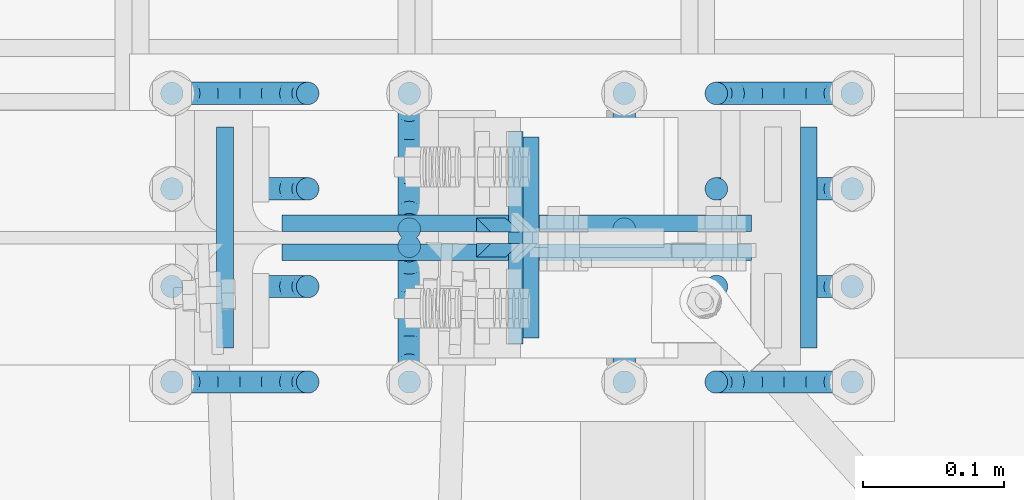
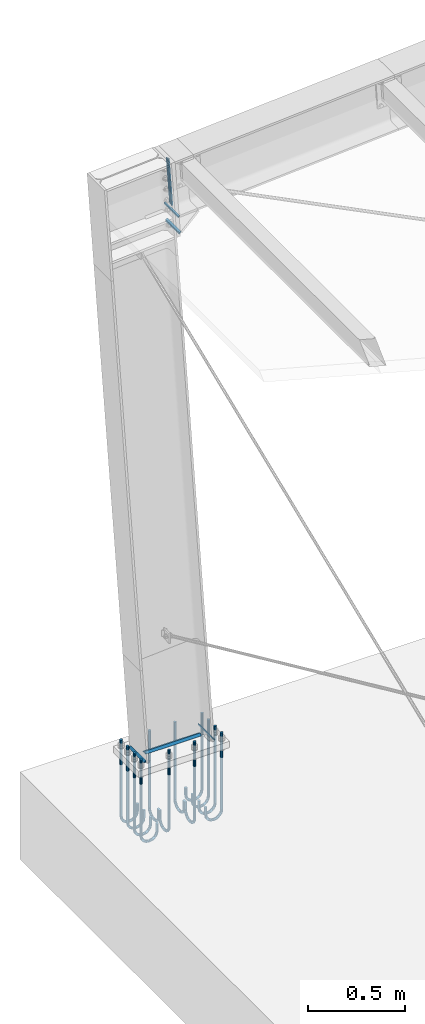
# One storey, part 22 of 72: 16 fasteners, 3 reinforcing bars.
"""IFC4 building model written with IfcOpenShell, lengths in metres."""

from ifc_helpers import new_model, entity, si_unit, frame, origin_with_axes, place, context, project, spatial, polyline, outline, extrude, source, transform, mapped, type_object, element, save


model = new_model("IFC4")

# Units and contexts
model_context = context("Model", 3, precision=1e-05, world=origin_with_axes())
ifc_project = project(units=[si_unit("LENGTHUNIT", "METRE"), si_unit("AREAUNIT", "SQUARE_METRE"), si_unit("VOLUMEUNIT", "CUBIC_METRE"), si_unit("MASSUNIT", "GRAM", prefix="KILO"), si_unit("TIMEUNIT", "SECOND"), si_unit("PLANEANGLEUNIT", "RADIAN"), si_unit("SOLIDANGLEUNIT", "STERADIAN"), si_unit("THERMODYNAMICTEMPERATUREUNIT", "DEGREE_CELSIUS")], contexts=[model_context])

# Site, building, storey
placement_1 = place(None, origin_with_axes())
site = spatial("IfcSite", under=ifc_project, at=placement_1, Name="Italia", CompositionType="ELEMENT")
building = spatial("IfcBuilding", under=site, at=placement_1, Name="Pensilina", CompositionType="ELEMENT")
storey = spatial("IfcBuildingStorey", under=building, at=placement_1, Name="Storey 0", CompositionType="ELEMENT", Elevation=0.0)

# Fasteners
fastener_type_1 = type_object("IfcFastenerType", Name="Collegamento 0005_-200", PredefinedType="WELD")
placement_2 = place(placement_1, origin_with_axes())
fastener_1_placement = place(placement_2, origin_with_axes())
element("IfcFastener", 1, at=fastener_1_placement, inside=storey, type_object=fastener_type_1, Name="Collegamento 0005_-200", context=model_context, shape_type="SweptSolid", body=[
    extrude(outline(polyline([(0.0, 0.0, 0.0), (0.0118082, 0.0121734, 0.0), (0.0118082, 0.0, 0.0), (0.0, 0.0, 0.0)])), frame((1.14428, 21.042, 0.103658), z_axis=(0.0, 1.0, 0.0), x_axis=(-1.0, 0.0, 0.0)), (0.0, 0.0, 1.0), 0.156101),
])
fastener_type_2 = type_object("IfcFastenerType", Name="Collegamento 0005_-200", PredefinedType="WELD")
fastener_2_placement = place(placement_2, origin_with_axes())
element("IfcFastener", 2, at=fastener_2_placement, inside=storey, type_object=fastener_type_2, Name="Collegamento 0005_-200", context=model_context, shape_type="SweptSolid", body=[
    extrude(outline(polyline([(0.0, 0.0, 0.0), (0.0118082, 0.0121734, 0.0), (0.0118082, 0.0, 0.0), (0.0, 0.0, 0.0)])), frame((0.719817, 21.1981, 0.103658), z_axis=(0.0, -1.0, 0.0), x_axis=(1.0, 0.0, 0.0)), (0.0, 0.0, 1.0), 0.156101),
])
fastener_type_3 = type_object("IfcFastenerType", Name="Collegamento 0005_-200", PredefinedType="WELD")
fastener_3_placement = place(placement_2, origin_with_axes())
element("IfcFastener", 3, at=fastener_3_placement, inside=storey, type_object=fastener_type_3, Name="Collegamento 0005_-200", context=model_context, shape_type="SweptSolid", body=[
    extrude(outline(polyline([(0.0, 0.0, 0.0), (0.0118084, 0.0121734, 0.0), (0.0118084, 0.0, 0.0), (0.0, 0.0, 0.0)])), frame((0.766057, 21.1039, 0.103658), z_axis=(1.0, 0.0, 0.0), x_axis=(0.0, 1.0, 0.0)), (0.0, 0.0, 1.0), 0.331979),
])
fastener_type_4 = type_object("IfcFastenerType", Name="Collegamento 0005_-200", PredefinedType="WELD")
fastener_4_placement = place(placement_2, origin_with_axes())
element("IfcFastener", 4, at=fastener_4_placement, inside=storey, type_object=fastener_type_4, Name="Collegamento 0005_-200", context=model_context, shape_type="SweptSolid", body=[
    extrude(outline(polyline([(0.0, 0.0, 0.0), (0.0118084, 0.0121734, 0.0), (0.0118084, 0.0, 0.0), (0.0, 0.0, 0.0)])), frame((1.09804, 21.1361, 0.103658), z_axis=(-1.0, 0.0, 0.0), x_axis=(0.0, -1.0, 0.0)), (0.0, 0.0, 1.0), 0.331979),
])
fastener_type_5 = type_object("IfcFastenerType", Name="Collegamento 0005_-200", PredefinedType="WELD")
fastener_5_placement = place(placement_2, origin_with_axes())
element("IfcFastener", 5, at=fastener_5_placement, inside=storey, type_object=fastener_type_5, Name="Collegamento 0005_-200", context=model_context, shape_type="SweptSolid", body=[
    extrude(outline(polyline([(0.0, 0.0, 0.0), (0.0118082, 0.0121734, 0.0), (0.0118082, 0.0, 0.0), (0.0, 0.0, 0.0)])), frame((1.14428, 21.042, 0.103658), z_axis=(0.0, 1.0, 0.0), x_axis=(-1.0, 0.0, 0.0)), (0.0, 0.0, 1.0), 0.156101),
])
fastener_type_6 = type_object("IfcFastenerType", Name="Collegamento 0005_-200", PredefinedType="WELD")
fastener_6_placement = place(placement_2, origin_with_axes())
element("IfcFastener", 6, at=fastener_6_placement, inside=storey, type_object=fastener_type_6, Name="Collegamento 0005_-200", context=model_context, shape_type="SweptSolid", body=[
    extrude(outline(polyline([(0.0, 0.0, 0.0), (0.0118082, 0.0121734, 0.0), (0.0118082, 0.0, 0.0), (0.0, 0.0, 0.0)])), frame((0.719817, 21.1981, 0.103658), z_axis=(0.0, -1.0, 0.0), x_axis=(1.0, 0.0, 0.0)), (0.0, 0.0, 1.0), 0.156101),
])
fastener_type_7 = type_object("IfcFastenerType", Name="Collegamento 0005_-200", PredefinedType="WELD")
fastener_7_placement = place(placement_2, origin_with_axes())
element("IfcFastener", 7, at=fastener_7_placement, inside=storey, type_object=fastener_type_7, Name="Collegamento 0005_-200", context=model_context, shape_type="SweptSolid", body=[
    extrude(outline(polyline([(0.0, 0.0, 0.0), (0.0118084, 0.0121734, 0.0), (0.0118084, 0.0, 0.0), (0.0, 0.0, 0.0)])), frame((0.766057, 21.1039, 0.103658), z_axis=(1.0, 0.0, 0.0), x_axis=(0.0, 1.0, 0.0)), (0.0, 0.0, 1.0), 0.331979),
])
fastener_type_8 = type_object("IfcFastenerType", Name="Collegamento 0005_-200", PredefinedType="WELD")
fastener_8_placement = place(placement_2, origin_with_axes())
element("IfcFastener", 8, at=fastener_8_placement, inside=storey, type_object=fastener_type_8, Name="Collegamento 0005_-200", context=model_context, shape_type="SweptSolid", body=[
    extrude(outline(polyline([(0.0, 0.0, 0.0), (0.0118084, 0.0121734, 0.0), (0.0118084, 0.0, 0.0), (0.0, 0.0, 0.0)])), frame((1.09804, 21.1361, 0.103658), z_axis=(-1.0, 0.0, 0.0), x_axis=(0.0, -1.0, 0.0)), (0.0, 0.0, 1.0), 0.331979),
])

# Reinforcing bars
shared_shape_1 = source(origin_with_axes(), model_context, "Body", "AdvancedSweptSolid", [
    entity("IfcSweptDiskSolid", entity("IfcIndexedPolyCurve", entity("IfcCartesianPointList3D", [[0.68823, 21.222, 0.153708], [0.68823, 21.222, -0.330292]]), [entity("IfcLineIndex", [1, 2])], False), 0.008),
])
reinforcing_bar_1_placement = place(placement_2, origin_with_axes())
element("IfcReinforcingBar", 9, at=reinforcing_bar_1_placement, inside=storey, BarLength=0.484, CrossSectionArea=0.00020106, NominalDiameter=0.016, context=model_context, shape_type="MappedRepresentation", body=[
    mapped(shared_shape_1, transform((0.4809, 0.0, 0.0), x_axis=(1.0, 0.0, 0.0), y_axis=(0.0, 1.0, 0.0), z_axis=(0.0, 0.0, 1.0), scale=1.0)),
    mapped(shared_shape_1, transform((0.319817, -0.203999, 0.0), x_axis=(1.0, 0.0, 0.0), y_axis=(0.0, 1.0, 0.0), z_axis=(0.0, 0.0, 1.0), scale=1.0)),
    mapped(shared_shape_1, transform((0.319817, 0.0, 0.0), x_axis=(1.0, 0.0, 0.0), y_axis=(0.0, 1.0, 0.0), z_axis=(0.0, 0.0, 1.0), scale=1.0)),
    mapped(shared_shape_1, transform((0.4809, -0.203999, 0.0), x_axis=(1.0, 0.0, 0.0), y_axis=(0.0, 1.0, 0.0), z_axis=(0.0, 0.0, 1.0), scale=1.0)),
    mapped(shared_shape_1, transform((0.4809, -0.136499, 0.0), x_axis=(1.0, 0.0, 0.0), y_axis=(0.0, 1.0, 0.0), z_axis=(0.0, 0.0, 1.0), scale=1.0)),
    mapped(shared_shape_1, transform((0.4809, -0.0674992, 0.0), x_axis=(1.0, 0.0, 0.0), y_axis=(0.0, 1.0, 0.0), z_axis=(0.0, 0.0, 1.0), scale=1.0)),
    mapped(shared_shape_1, transform((0.0, -0.136499, 0.0), x_axis=(1.0, 0.0, 0.0), y_axis=(0.0, 1.0, 0.0), z_axis=(0.0, 0.0, 1.0), scale=1.0)),
    mapped(shared_shape_1, transform((0.0, -0.0674992, 0.0), x_axis=(1.0, 0.0, 0.0), y_axis=(0.0, 1.0, 0.0), z_axis=(0.0, 0.0, 1.0), scale=1.0)),
    mapped(shared_shape_1, transform((0.0, 0.0, 0.0), x_axis=(1.0, 0.0, 0.0), y_axis=(0.0, 1.0, 0.0), z_axis=(0.0, 0.0, 1.0), scale=1.0)),
    mapped(shared_shape_1, transform((0.167817, -0.203999, 0.0), x_axis=(1.0, 0.0, 0.0), y_axis=(0.0, 1.0, 0.0), z_axis=(0.0, 0.0, 1.0), scale=1.0)),
    mapped(shared_shape_1, transform((0.167817, 0.0, 0.0), x_axis=(1.0, 0.0, 0.0), y_axis=(0.0, 1.0, 0.0), z_axis=(0.0, 0.0, 1.0), scale=1.0)),
    mapped(shared_shape_1, transform((0.0, -0.203999, 0.0), x_axis=(1.0, 0.0, 0.0), y_axis=(0.0, 1.0, 0.0), z_axis=(0.0, 0.0, 1.0), scale=1.0)),
])
shared_shape_2 = source(origin_with_axes(), model_context, "Body", "AdvancedSweptSolid", [
    entity("IfcSweptDiskSolid", entity("IfcIndexedPolyCurve", entity("IfcCartesianPointList3D", [[0.68823, 21.222, -0.330292], [0.691883, 21.222, -0.348661]]), [entity("IfcLineIndex", [1, 2])], False), 0.008),
])
reinforcing_bar_2_placement = place(placement_2, origin_with_axes())
element("IfcReinforcingBar", 10, at=reinforcing_bar_2_placement, inside=storey, BarLength=0.0187287, CrossSectionArea=0.00020106, NominalDiameter=0.016, context=model_context, shape_type="MappedRepresentation", body=[
    mapped(shared_shape_2, transform((-20.366, 21.9102, 4.30048e-05), x_axis=(0.0, -1.0, -6.24508e-05), y_axis=(1.0, 0.0, 0.0), z_axis=(0.0, -6.24508e-05, 1.0), scale=1.0)),
    mapped(shared_shape_2, transform((0.0, -0.203999, 0.0), x_axis=(1.0, 0.0, 0.0), y_axis=(0.0, 1.0, 0.0), z_axis=(0.0, 0.0, 1.0), scale=1.0)),
    mapped(shared_shape_2, transform((-20.366, 21.9806, -0.30687), x_axis=(0.0, -0.923887, 0.382666), y_axis=(1.0, 0.0, 0.0), z_axis=(0.0, 0.382666, 0.923887), scale=1.0)),
    mapped(shared_shape_2, transform((-0.0703552, -0.203999, -0.306887), x_axis=(0.923879, 0.0, 0.382685), y_axis=(0.0, 1.0, 0.0), z_axis=(-0.382685, 0.0, 0.923879), scale=1.0)),
    mapped(shared_shape_2, transform((0.149338, -0.0674992, -0.884083), x_axis=(0.382682, 0.0, 0.92388), y_axis=(0.0, 1.0, 0.0), z_axis=(-0.92388, 0.0, 0.382682), scale=1.0)),
    mapped(shared_shape_2, transform((-20.366, 21.9282, -0.617316), x_axis=(0.0, -0.707124, 0.70709), y_axis=(1.0, 0.0, 0.0), z_axis=(0.0, 0.70709, 0.707124), scale=1.0)),
    mapped(shared_shape_2, transform((-0.0179145, 0.0, -0.617335), x_axis=(0.707105, 0.0, 0.707108), y_axis=(0.0, 1.0, 0.0), z_axis=(-0.707108, 0.0, 0.707105), scale=1.0)),
    mapped(shared_shape_2, transform((-20.366, 21.7609, -0.88409), x_axis=(0.0, -0.38267, 0.923885), y_axis=(1.0, 0.0, 0.0), z_axis=(0.0, 0.923885, 0.38267), scale=1.0)),
    mapped(shared_shape_2, transform((1.02327, -0.203999, -1.08444), x_axis=(-0.707106, 0.0, 0.707108), y_axis=(0.0, 1.0, 0.0), z_axis=(-0.707108, 0.0, -0.707106), scale=1.0)),
    mapped(shared_shape_2, transform((0.149338, -0.203999, -0.884083), x_axis=(0.382682, 0.0, 0.92388), y_axis=(0.0, 1.0, 0.0), z_axis=(-0.92388, 0.0, 0.382682), scale=1.0)),
    mapped(shared_shape_2, transform((0.712824, -0.0674992, -1.13688), x_axis=(-0.382684, 0.0, 0.923879), y_axis=(0.0, 1.0, 0.0), z_axis=(-0.923879, 0.0, -0.382684), scale=1.0)),
    mapped(shared_shape_2, transform((-20.366, 21.5043, -1.06652), x_axis=(0.0, 0.0, 1.0), y_axis=(1.0, 0.0, 0.0), z_axis=(0.0, 1.0, 0.0), scale=1.0)),
    mapped(shared_shape_2, transform((1.29002, -0.203999, -0.917183), x_axis=(-0.923881, 0.0, 0.382679), y_axis=(0.0, 1.0, 0.0), z_axis=(-0.382679, 0.0, -0.923881), scale=1.0)),
    mapped(shared_shape_2, transform((22.078, 21.0426, -1.13688), x_axis=(0.0, -0.382692, 0.923876), y_axis=(-1.0, 0.0, 0.0), z_axis=(0.0, -0.923876, -0.382692), scale=1.0)),
    mapped(shared_shape_2, transform((-0.0179145, -0.0674992, -0.617335), x_axis=(0.707105, 0.0, 0.707108), y_axis=(0.0, 1.0, 0.0), z_axis=(-0.707108, 0.0, 0.707105), scale=1.0)),
    mapped(shared_shape_2, transform((0.149338, 0.0, -0.884083), x_axis=(0.382682, 0.0, 0.92388), y_axis=(0.0, 1.0, 0.0), z_axis=(-0.92388, 0.0, 0.382682), scale=1.0)),
    mapped(shared_shape_2, transform((0.712824, -0.203999, -1.13688), x_axis=(-0.382684, 0.0, 0.923879), y_axis=(0.0, 1.0, 0.0), z_axis=(-0.923879, 0.0, -0.382684), scale=1.0)),
    mapped(shared_shape_2, transform((-0.0703552, 0.0, -0.306887), x_axis=(0.923879, 0.0, 0.382685), y_axis=(0.0, 1.0, 0.0), z_axis=(-0.382685, 0.0, 0.923879), scale=1.0)),
    mapped(shared_shape_2, transform((-0.0179145, -0.136499, -0.617335), x_axis=(0.707105, 0.0, 0.707108), y_axis=(0.0, 1.0, 0.0), z_axis=(-0.707108, 0.0, 0.707105), scale=1.0)),
    mapped(shared_shape_2, transform((-0.0179145, -0.203999, -0.617335), x_axis=(0.707105, 0.0, 0.707108), y_axis=(0.0, 1.0, 0.0), z_axis=(-0.707108, 0.0, 0.707105), scale=1.0)),
    mapped(shared_shape_2, transform((0.0, -0.136499, 0.0), x_axis=(1.0, 0.0, 0.0), y_axis=(0.0, 1.0, 0.0), z_axis=(0.0, 0.0, 1.0), scale=1.0)),
    mapped(shared_shape_2, transform((0.405939, 0.0, -1.06652), x_axis=(0.0, 0.0, 1.0), y_axis=(0.0, 1.0, 0.0), z_axis=(-1.0, 0.0, 0.0), scale=1.0)),
    mapped(shared_shape_2, transform((-0.0703552, -0.136499, -0.306887), x_axis=(0.923879, 0.0, 0.382685), y_axis=(0.0, 1.0, 0.0), z_axis=(-0.382685, 0.0, 0.923879), scale=1.0)),
    mapped(shared_shape_2, transform((0.0, -0.0674992, 0.0), x_axis=(1.0, 0.0, 0.0), y_axis=(0.0, 1.0, 0.0), z_axis=(0.0, 0.0, 1.0), scale=1.0)),
    mapped(shared_shape_2, transform((1.02327, -0.136499, -1.08444), x_axis=(-0.707106, 0.0, 0.707108), y_axis=(0.0, 1.0, 0.0), z_axis=(-0.707108, 0.0, -0.707106), scale=1.0)),
    mapped(shared_shape_2, transform((0.149338, -0.136499, -0.884083), x_axis=(0.382682, 0.0, 0.92388), y_axis=(0.0, 1.0, 0.0), z_axis=(-0.92388, 0.0, 0.382682), scale=1.0)),
    mapped(shared_shape_2, transform((0.712824, -0.136499, -1.13688), x_axis=(-0.382684, 0.0, 0.923879), y_axis=(0.0, 1.0, 0.0), z_axis=(-0.923879, 0.0, -0.382684), scale=1.0)),
    mapped(shared_shape_2, transform((1.02327, -0.0674992, -1.08444), x_axis=(-0.707106, 0.0, 0.707108), y_axis=(0.0, 1.0, 0.0), z_axis=(-0.707108, 0.0, -0.707106), scale=1.0)),
    mapped(shared_shape_2, transform((1.02327, 0.0, -1.08444), x_axis=(-0.707106, 0.0, 0.707108), y_axis=(0.0, 1.0, 0.0), z_axis=(-0.707108, 0.0, -0.707106), scale=1.0)),
    mapped(shared_shape_2, transform((-0.0703552, -0.0674992, -0.306887), x_axis=(0.923879, 0.0, 0.382685), y_axis=(0.0, 1.0, 0.0), z_axis=(-0.382685, 0.0, 0.923879), scale=1.0)),
    mapped(shared_shape_2, transform((0.0, 0.0, 0.0), x_axis=(1.0, 0.0, 0.0), y_axis=(0.0, 1.0, 0.0), z_axis=(0.0, 0.0, 1.0), scale=1.0)),
    mapped(shared_shape_2, transform((0.405939, -0.136499, -1.06652), x_axis=(0.0, 0.0, 1.0), y_axis=(0.0, 1.0, 0.0), z_axis=(-1.0, 0.0, 0.0), scale=1.0)),
    mapped(shared_shape_2, transform((-20.214, 20.887, -1.08445), x_axis=(0.0, 0.707059, 0.707155), y_axis=(1.0, 0.0, 0.0), z_axis=(0.0, 0.707155, -0.707059), scale=1.0)),
    mapped(shared_shape_2, transform((0.712824, 0.0, -1.13688), x_axis=(-0.382684, 0.0, 0.923879), y_axis=(0.0, 1.0, 0.0), z_axis=(-0.923879, 0.0, -0.382684), scale=1.0)),
    mapped(shared_shape_2, transform((-20.366, 21.1974, -1.13688), x_axis=(0.0, 0.382692, 0.923876), y_axis=(1.0, 0.0, 0.0), z_axis=(0.0, 0.923876, -0.382692), scale=1.0)),
    mapped(shared_shape_2, transform((-20.366, 20.887, -1.08445), x_axis=(0.0, 0.707059, 0.707155), y_axis=(1.0, 0.0, 0.0), z_axis=(0.0, 0.707155, -0.707059), scale=1.0)),
    mapped(shared_shape_2, transform((-20.214, 21.5043, -1.06652), x_axis=(0.0, 0.0, 1.0), y_axis=(1.0, 0.0, 0.0), z_axis=(0.0, 1.0, 0.0), scale=1.0)),
    mapped(shared_shape_2, transform((0.405939, -0.203999, -1.06652), x_axis=(0.0, 0.0, 1.0), y_axis=(0.0, 1.0, 0.0), z_axis=(-1.0, 0.0, 0.0), scale=1.0)),
    mapped(shared_shape_2, transform((1.29002, -0.0674992, -0.917183), x_axis=(-0.923881, 0.0, 0.382679), y_axis=(0.0, 1.0, 0.0), z_axis=(-0.382679, 0.0, -0.923881), scale=1.0)),
    mapped(shared_shape_2, transform((1.29002, -0.136499, -0.917183), x_axis=(-0.923881, 0.0, 0.382679), y_axis=(0.0, 1.0, 0.0), z_axis=(-0.382679, 0.0, -0.923881), scale=1.0)),
    mapped(shared_shape_2, transform((0.405939, -0.0674992, -1.06652), x_axis=(0.0, 0.0, 1.0), y_axis=(0.0, 1.0, 0.0), z_axis=(-1.0, 0.0, 0.0), scale=1.0)),
    mapped(shared_shape_2, transform((22.23, 20.7357, -1.06652), x_axis=(0.0, 0.0, 1.0), y_axis=(-1.0, 0.0, 0.0), z_axis=(0.0, -1.0, 0.0), scale=1.0)),
    mapped(shared_shape_2, transform((22.078, 20.7357, -1.06652), x_axis=(0.0, 0.0, 1.0), y_axis=(-1.0, 0.0, 0.0), z_axis=(0.0, -1.0, 0.0), scale=1.0)),
    mapped(shared_shape_2, transform((1.29002, 0.0, -0.917183), x_axis=(-0.923881, 0.0, 0.382679), y_axis=(0.0, 1.0, 0.0), z_axis=(-0.382679, 0.0, -0.923881), scale=1.0)),
    mapped(shared_shape_2, transform((22.078, 20.3298, 4.30048e-05), x_axis=(0.0, 1.0, -6.24508e-05), y_axis=(-1.0, 0.0, 0.0), z_axis=(0.0, 6.24508e-05, 1.0), scale=1.0)),
    mapped(shared_shape_2, transform((22.078, 20.2594, -0.30687), x_axis=(0.0, 0.923887, 0.382666), y_axis=(-1.0, 0.0, 0.0), z_axis=(0.0, -0.382666, 0.923887), scale=1.0)),
    mapped(shared_shape_2, transform((22.23, 20.2594, -0.30687), x_axis=(0.0, 0.923887, 0.382666), y_axis=(-1.0, 0.0, 0.0), z_axis=(0.0, -0.382666, 0.923887), scale=1.0)),
    mapped(shared_shape_2, transform((22.078, 20.3118, -0.617316), x_axis=(0.0, 0.707124, 0.70709), y_axis=(-1.0, 0.0, 0.0), z_axis=(0.0, -0.70709, 0.707124), scale=1.0)),
    mapped(shared_shape_2, transform((22.23, 20.3298, 4.30048e-05), x_axis=(0.0, 1.0, -6.24508e-05), y_axis=(-1.0, 0.0, 0.0), z_axis=(0.0, 6.24508e-05, 1.0), scale=1.0)),
    mapped(shared_shape_2, transform((22.078, 20.4791, -0.88409), x_axis=(0.0, 0.38267, 0.923885), y_axis=(-1.0, 0.0, 0.0), z_axis=(0.0, -0.923885, 0.38267), scale=1.0)),
    mapped(shared_shape_2, transform((22.23, 20.3118, -0.617316), x_axis=(0.0, 0.707124, 0.70709), y_axis=(-1.0, 0.0, 0.0), z_axis=(0.0, -0.70709, 0.707124), scale=1.0)),
    mapped(shared_shape_2, transform((22.23, 20.4791, -0.88409), x_axis=(0.0, 0.38267, 0.923885), y_axis=(-1.0, 0.0, 0.0), z_axis=(0.0, -0.923885, 0.38267), scale=1.0)),
    mapped(shared_shape_2, transform((-20.214, 20.6202, -0.917199), x_axis=(0.0, 0.923869, 0.382708), y_axis=(1.0, 0.0, 0.0), z_axis=(0.0, 0.382708, -0.923869), scale=1.0)),
    mapped(shared_shape_2, transform((-20.366, 20.6202, -0.917199), x_axis=(0.0, 0.923869, 0.382708), y_axis=(1.0, 0.0, 0.0), z_axis=(0.0, 0.382708, -0.923869), scale=1.0)),
    mapped(shared_shape_2, transform((-20.214, 21.9806, -0.30687), x_axis=(0.0, -0.923887, 0.382666), y_axis=(1.0, 0.0, 0.0), z_axis=(0.0, 0.382666, 0.923887), scale=1.0)),
    mapped(shared_shape_2, transform((-20.214, 21.9282, -0.617316), x_axis=(0.0, -0.707124, 0.70709), y_axis=(1.0, 0.0, 0.0), z_axis=(0.0, 0.70709, 0.707124), scale=1.0)),
    mapped(shared_shape_2, transform((-20.214, 21.9102, 4.30048e-05), x_axis=(0.0, -1.0, -6.24508e-05), y_axis=(1.0, 0.0, 0.0), z_axis=(0.0, -6.24508e-05, 1.0), scale=1.0)),
    mapped(shared_shape_2, transform((-20.214, 21.7609, -0.88409), x_axis=(0.0, -0.38267, 0.923885), y_axis=(1.0, 0.0, 0.0), z_axis=(0.0, 0.923885, 0.38267), scale=1.0)),
    mapped(shared_shape_2, transform((-20.214, 21.1974, -1.13688), x_axis=(0.0, 0.382692, 0.923876), y_axis=(1.0, 0.0, 0.0), z_axis=(0.0, 0.923876, -0.382692), scale=1.0)),
    mapped(shared_shape_2, transform((1.85736, 42.24, 0.0), x_axis=(-1.0, 0.0, 0.0), y_axis=(0.0, -1.0, 0.0), z_axis=(0.0, 0.0, 1.0), scale=1.0)),
    mapped(shared_shape_2, transform((1.92771, 42.24, -0.306887), x_axis=(-0.923879, 0.0, 0.382685), y_axis=(0.0, -1.0, 0.0), z_axis=(0.382685, 0.0, 0.923879), scale=1.0)),
    mapped(shared_shape_2, transform((1.87528, 42.24, -0.617331), x_axis=(-0.707109, 0.0, 0.707105), y_axis=(0.0, -1.0, 0.0), z_axis=(0.707105, 0.0, 0.707109), scale=1.0)),
    mapped(shared_shape_2, transform((22.078, 21.353, -1.08445), x_axis=(0.0, -0.707059, 0.707155), y_axis=(-1.0, 0.0, 0.0), z_axis=(0.0, -0.707155, -0.707059), scale=1.0)),
    mapped(shared_shape_2, transform((1.70802, 42.24, -0.884083), x_axis=(-0.382682, 0.0, 0.92388), y_axis=(0.0, -1.0, 0.0), z_axis=(0.92388, 0.0, 0.382682), scale=1.0)),
    mapped(shared_shape_2, transform((22.23, 21.6198, -0.917199), x_axis=(0.0, -0.923869, 0.382708), y_axis=(-1.0, 0.0, 0.0), z_axis=(0.0, -0.382708, -0.923869), scale=1.0)),
    mapped(shared_shape_2, transform((1.45142, 42.24, -1.06652), x_axis=(0.0, 0.0, 1.0), y_axis=(0.0, -1.0, 0.0), z_axis=(1.0, 0.0, 0.0), scale=1.0)),
    mapped(shared_shape_2, transform((22.078, 21.6198, -0.917199), x_axis=(0.0, -0.923869, 0.382708), y_axis=(-1.0, 0.0, 0.0), z_axis=(0.0, -0.382708, -0.923869), scale=1.0)),
    mapped(shared_shape_2, transform((0.834084, 42.24, -1.08443), x_axis=(0.707111, 0.0, 0.707102), y_axis=(0.0, -1.0, 0.0), z_axis=(0.707102, 0.0, -0.707111), scale=1.0)),
    mapped(shared_shape_2, transform((0.834084, 42.444, -1.08443), x_axis=(0.707111, 0.0, 0.707102), y_axis=(0.0, -1.0, 0.0), z_axis=(0.707102, 0.0, -0.707111), scale=1.0)),
    mapped(shared_shape_2, transform((0.56734, 42.3075, -0.917186), x_axis=(0.923879, 0.0, 0.382685), y_axis=(0.0, -1.0, 0.0), z_axis=(0.382685, 0.0, -0.923879), scale=1.0)),
    mapped(shared_shape_2, transform((0.834084, 42.3075, -1.08443), x_axis=(0.707111, 0.0, 0.707102), y_axis=(0.0, -1.0, 0.0), z_axis=(0.707102, 0.0, -0.707111), scale=1.0)),
    mapped(shared_shape_2, transform((22.23, 21.353, -1.08445), x_axis=(0.0, -0.707059, 0.707155), y_axis=(-1.0, 0.0, 0.0), z_axis=(0.0, -0.707155, -0.707059), scale=1.0)),
    mapped(shared_shape_2, transform((0.56734, 42.3765, -0.917186), x_axis=(0.923879, 0.0, 0.382685), y_axis=(0.0, -1.0, 0.0), z_axis=(0.382685, 0.0, -0.923879), scale=1.0)),
    mapped(shared_shape_2, transform((0.834084, 42.3765, -1.08443), x_axis=(0.707111, 0.0, 0.707102), y_axis=(0.0, -1.0, 0.0), z_axis=(0.707102, 0.0, -0.707111), scale=1.0)),
    mapped(shared_shape_2, transform((0.56734, 42.24, -0.917186), x_axis=(0.923879, 0.0, 0.382685), y_axis=(0.0, -1.0, 0.0), z_axis=(0.382685, 0.0, -0.923879), scale=1.0)),
    mapped(shared_shape_2, transform((0.56734, 42.444, -0.917186), x_axis=(0.923879, 0.0, 0.382685), y_axis=(0.0, -1.0, 0.0), z_axis=(0.382685, 0.0, -0.923879), scale=1.0)),
    mapped(shared_shape_2, transform((1.14454, 42.3075, -1.13688), x_axis=(0.382683, 0.0, 0.92388), y_axis=(0.0, -1.0, 0.0), z_axis=(0.92388, 0.0, -0.382683), scale=1.0)),
    mapped(shared_shape_2, transform((1.14454, 42.24, -1.13688), x_axis=(0.382683, 0.0, 0.92388), y_axis=(0.0, -1.0, 0.0), z_axis=(0.92388, 0.0, -0.382683), scale=1.0)),
    mapped(shared_shape_2, transform((1.92771, 42.3075, -0.306887), x_axis=(-0.923879, 0.0, 0.382685), y_axis=(0.0, -1.0, 0.0), z_axis=(0.382685, 0.0, 0.923879), scale=1.0)),
    mapped(shared_shape_2, transform((1.85736, 42.3075, 0.0), x_axis=(-1.0, 0.0, 0.0), y_axis=(0.0, -1.0, 0.0), z_axis=(0.0, 0.0, 1.0), scale=1.0)),
    mapped(shared_shape_2, transform((1.70802, 42.3075, -0.884083), x_axis=(-0.382682, 0.0, 0.92388), y_axis=(0.0, -1.0, 0.0), z_axis=(0.92388, 0.0, 0.382682), scale=1.0)),
    mapped(shared_shape_2, transform((1.87528, 42.3075, -0.617331), x_axis=(-0.707109, 0.0, 0.707105), y_axis=(0.0, -1.0, 0.0), z_axis=(0.707105, 0.0, 0.707109), scale=1.0)),
    mapped(shared_shape_2, transform((1.45142, 42.3075, -1.06652), x_axis=(0.0, 0.0, 1.0), y_axis=(0.0, -1.0, 0.0), z_axis=(1.0, 0.0, 0.0), scale=1.0)),
    mapped(shared_shape_2, transform((1.85736, 42.3765, 0.0), x_axis=(-1.0, 0.0, 0.0), y_axis=(0.0, -1.0, 0.0), z_axis=(0.0, 0.0, 1.0), scale=1.0)),
    mapped(shared_shape_2, transform((1.87528, 42.3765, -0.617331), x_axis=(-0.707109, 0.0, 0.707105), y_axis=(0.0, -1.0, 0.0), z_axis=(0.707105, 0.0, 0.707109), scale=1.0)),
    mapped(shared_shape_2, transform((1.92771, 42.3765, -0.306887), x_axis=(-0.923879, 0.0, 0.382685), y_axis=(0.0, -1.0, 0.0), z_axis=(0.382685, 0.0, 0.923879), scale=1.0)),
    mapped(shared_shape_2, transform((1.70802, 42.3765, -0.884083), x_axis=(-0.382682, 0.0, 0.92388), y_axis=(0.0, -1.0, 0.0), z_axis=(0.92388, 0.0, 0.382682), scale=1.0)),
    mapped(shared_shape_2, transform((1.45142, 42.3765, -1.06652), x_axis=(0.0, 0.0, 1.0), y_axis=(0.0, -1.0, 0.0), z_axis=(1.0, 0.0, 0.0), scale=1.0)),
    mapped(shared_shape_2, transform((1.14454, 42.3765, -1.13688), x_axis=(0.382683, 0.0, 0.92388), y_axis=(0.0, -1.0, 0.0), z_axis=(0.92388, 0.0, -0.382683), scale=1.0)),
    mapped(shared_shape_2, transform((1.85736, 42.444, 0.0), x_axis=(-1.0, 0.0, 0.0), y_axis=(0.0, -1.0, 0.0), z_axis=(0.0, 0.0, 1.0), scale=1.0)),
    mapped(shared_shape_2, transform((1.92771, 42.444, -0.306887), x_axis=(-0.923879, 0.0, 0.382685), y_axis=(0.0, -1.0, 0.0), z_axis=(0.382685, 0.0, 0.923879), scale=1.0)),
    mapped(shared_shape_2, transform((1.87528, 42.444, -0.617331), x_axis=(-0.707109, 0.0, 0.707105), y_axis=(0.0, -1.0, 0.0), z_axis=(0.707105, 0.0, 0.707109), scale=1.0)),
    mapped(shared_shape_2, transform((1.70802, 42.444, -0.884083), x_axis=(-0.382682, 0.0, 0.92388), y_axis=(0.0, -1.0, 0.0), z_axis=(0.92388, 0.0, 0.382682), scale=1.0)),
    mapped(shared_shape_2, transform((1.45142, 42.444, -1.06652), x_axis=(0.0, 0.0, 1.0), y_axis=(0.0, -1.0, 0.0), z_axis=(1.0, 0.0, 0.0), scale=1.0)),
    mapped(shared_shape_2, transform((22.23, 21.0426, -1.13688), x_axis=(0.0, -0.382692, 0.923876), y_axis=(-1.0, 0.0, 0.0), z_axis=(0.0, -0.923876, -0.382692), scale=1.0)),
    mapped(shared_shape_2, transform((1.14454, 42.444, -1.13688), x_axis=(0.382683, 0.0, 0.92388), y_axis=(0.0, -1.0, 0.0), z_axis=(0.92388, 0.0, -0.382683), scale=1.0)),
])
shared_shape_3 = source(origin_with_axes(), model_context, "Body", "AdvancedSweptSolid", [
    entity("IfcSweptDiskSolid", entity("IfcIndexedPolyCurve", entity("IfcCartesianPointList3D", [[0.78423, 21.222, -0.330291], [0.78423, 21.222, -0.282292]]), [entity("IfcLineIndex", [1, 2])], False), 0.008),
])
reinforcing_bar_3_placement = place(placement_2, origin_with_axes())
element("IfcReinforcingBar", 11, at=reinforcing_bar_3_placement, inside=storey, BarLength=0.0479995, CrossSectionArea=0.00020106, NominalDiameter=0.016, context=model_context, shape_type="MappedRepresentation", body=[
    mapped(shared_shape_3, transform((0.2889, 0.0, 0.0), x_axis=(1.0, 0.0, 0.0), y_axis=(0.0, 1.0, 0.0), z_axis=(0.0, 0.0, 1.0), scale=1.0)),
    mapped(shared_shape_3, transform((0.223817, -0.107998, 0.0), x_axis=(1.0, 0.0, 0.0), y_axis=(0.0, 1.0, 0.0), z_axis=(0.0, 0.0, 1.0), scale=1.0)),
    mapped(shared_shape_3, transform((0.223817, -0.0960007, 0.0), x_axis=(1.0, 0.0, 0.0), y_axis=(0.0, 1.0, 0.0), z_axis=(0.0, 0.0, 1.0), scale=1.0)),
    mapped(shared_shape_3, transform((0.2889, -0.203999, 0.0), x_axis=(1.0, 0.0, 0.0), y_axis=(0.0, 1.0, 0.0), z_axis=(0.0, 0.0, 1.0), scale=1.0)),
    mapped(shared_shape_3, transform((0.2889, -0.136499, 0.0), x_axis=(1.0, 0.0, 0.0), y_axis=(0.0, 1.0, 0.0), z_axis=(0.0, 0.0, 1.0), scale=1.0)),
    mapped(shared_shape_3, transform((0.2889, -0.0674992, 0.0), x_axis=(1.0, 0.0, 0.0), y_axis=(0.0, 1.0, 0.0), z_axis=(0.0, 0.0, 1.0), scale=1.0)),
    mapped(shared_shape_3, transform((0.0, -0.136499, 0.0), x_axis=(1.0, 0.0, 0.0), y_axis=(0.0, 1.0, 0.0), z_axis=(0.0, 0.0, 1.0), scale=1.0)),
    mapped(shared_shape_3, transform((0.0, -0.0674992, 0.0), x_axis=(1.0, 0.0, 0.0), y_axis=(0.0, 1.0, 0.0), z_axis=(0.0, 0.0, 1.0), scale=1.0)),
    mapped(shared_shape_3, transform((0.0, 0.0, 0.0), x_axis=(1.0, 0.0, 0.0), y_axis=(0.0, 1.0, 0.0), z_axis=(0.0, 0.0, 1.0), scale=1.0)),
    mapped(shared_shape_3, transform((0.0718169, -0.107998, 0.0), x_axis=(1.0, 0.0, 0.0), y_axis=(0.0, 1.0, 0.0), z_axis=(0.0, 0.0, 1.0), scale=1.0)),
    mapped(shared_shape_3, transform((0.0718169, -0.0960007, 0.0), x_axis=(1.0, 0.0, 0.0), y_axis=(0.0, 1.0, 0.0), z_axis=(0.0, 0.0, 1.0), scale=1.0)),
    mapped(shared_shape_3, transform((0.0, -0.203999, 0.0), x_axis=(1.0, 0.0, 0.0), y_axis=(0.0, 1.0, 0.0), z_axis=(0.0, 0.0, 1.0), scale=1.0)),
])

# Fasteners
fastener_type_9 = type_object("IfcFastenerType", Name="Collegamento 0105_0205", PredefinedType="WELD")
fastener_9_placement = place(placement_2, origin_with_axes())
element("IfcFastener", 12, at=fastener_9_placement, inside=storey, type_object=fastener_type_9, Name="Collegamento 0105_0205", context=model_context, shape_type="SweptSolid", body=[
    extrude(outline(polyline([(0.0, 0.0, 0.0), (-0.00947303, 0.0105422, 0.0), (0.000676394, 0.00984478, 0.0), (0.0, 0.0, 0.0)])), frame((0.926961, 21.045, 3.45975), z_axis=(0.0, 1.0, 0.0), x_axis=(-1.0, 0.0, 0.0)), (0.0, 0.0, 1.0), 0.150097),
])
fastener_type_10 = type_object("IfcFastenerType", Name="Collegamento 0105_0205", PredefinedType="WELD")
fastener_10_placement = place(placement_2, origin_with_axes())
element("IfcFastener", 13, at=fastener_10_placement, inside=storey, type_object=fastener_type_10, Name="Collegamento 0105_0205", context=model_context, shape_type="SweptSolid", body=[
    extrude(outline(polyline([(0.0, 0.0, 0.0), (0.00986862, 0.0101733, 0.0), (0.00986862, 0.0, 0.0), (0.0, 0.0, 0.0)])), frame((0.924187, 21.1338, 3.50013), z_axis=(-0.068540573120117, 0.0, 0.997648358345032), x_axis=(0.0, -1.0, 0.0)), (0.0, 0.0, 1.0), 0.2987),
])
fastener_type_11 = type_object("IfcFastenerType", Name="Collegamento 0105_0205", PredefinedType="WELD")
fastener_11_placement = place(placement_2, origin_with_axes())
element("IfcFastener", 14, at=fastener_11_placement, inside=storey, type_object=fastener_type_11, Name="Collegamento 0105_0205", context=model_context, shape_type="SweptSolid", body=[
    extrude(outline(polyline([(0.0, 0.0, 0.0), (0.00986862, 0.0101733, 0.0), (0.00986862, 0.0, 0.0), (0.0, 0.0, 0.0)])), frame((0.903714, 21.1062, 3.79813), z_axis=(0.068540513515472, 0.0, -0.997648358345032), x_axis=(0.0, 1.0, 0.0)), (0.0, 0.0, 1.0), 0.2987),
])
fastener_type_12 = type_object("IfcFastenerType", Name="Collegamento 0105_0205", PredefinedType="WELD")
fastener_12_placement = place(placement_2, origin_with_axes())
element("IfcFastener", 15, at=fastener_12_placement, inside=storey, type_object=fastener_type_12, Name="Collegamento 0105_0205", context=model_context, shape_type="SweptSolid", body=[
    extrude(outline(polyline([(0.0, 0.0, 0.0), (-0.0131977, 0.0146873, 0.0), (0.00094229, 0.013716, 0.0), (0.0, 0.0, 0.0)])), frame((0.934492, 21.049, 3.35013), z_axis=(0.0, 1.0, 0.0), x_axis=(-1.0, 0.0, 0.0)), (0.0, 0.0, 1.0), 0.142097),
])
fastener_type_13 = type_object("IfcFastenerType", Name="Collegamento 0105_0205", PredefinedType="WELD")
fastener_13_placement = place(placement_2, origin_with_axes())
element("IfcFastener", 16, at=fastener_13_placement, inside=storey, type_object=fastener_type_13, Name="Collegamento 0105_0205", context=model_context, shape_type="SweptSolid", body=[
    extrude(outline(polyline([(0.0, 0.0, 0.0), (-0.00947303, 0.0105422, 0.0), (0.000676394, 0.00984478, 0.0), (0.0, 0.0, 0.0)])), frame((0.926961, 21.045, 3.45975), z_axis=(0.0, 1.0, 0.0), x_axis=(-1.0, 0.0, 0.0)), (0.0, 0.0, 1.0), 0.150097),
])
fastener_type_14 = type_object("IfcFastenerType", Name="Collegamento 0105_0205", PredefinedType="WELD")
fastener_14_placement = place(placement_2, origin_with_axes())
element("IfcFastener", 17, at=fastener_14_placement, inside=storey, type_object=fastener_type_14, Name="Collegamento 0105_0205", context=model_context, shape_type="SweptSolid", body=[
    extrude(outline(polyline([(0.0, 0.0, 0.0), (0.00986862, 0.0101733, 0.0), (0.00986862, 0.0, 0.0), (0.0, 0.0, 0.0)])), frame((0.924187, 21.1338, 3.50013), z_axis=(-0.068540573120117, 0.0, 0.997648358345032), x_axis=(0.0, -1.0, 0.0)), (0.0, 0.0, 1.0), 0.2987),
])
fastener_type_15 = type_object("IfcFastenerType", Name="Collegamento 0105_0205", PredefinedType="WELD")
fastener_15_placement = place(placement_2, origin_with_axes())
element("IfcFastener", 18, at=fastener_15_placement, inside=storey, type_object=fastener_type_15, Name="Collegamento 0105_0205", context=model_context, shape_type="SweptSolid", body=[
    extrude(outline(polyline([(0.0, 0.0, 0.0), (0.00986862, 0.0101733, 0.0), (0.00986862, 0.0, 0.0), (0.0, 0.0, 0.0)])), frame((0.903714, 21.1062, 3.79813), z_axis=(0.068540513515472, 0.0, -0.997648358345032), x_axis=(0.0, 1.0, 0.0)), (0.0, 0.0, 1.0), 0.2987),
])
fastener_type_16 = type_object("IfcFastenerType", Name="Collegamento 0105_0205", PredefinedType="WELD")
fastener_16_placement = place(placement_2, origin_with_axes())
element("IfcFastener", 19, at=fastener_16_placement, inside=storey, type_object=fastener_type_16, Name="Collegamento 0105_0205", context=model_context, shape_type="SweptSolid", body=[
    extrude(outline(polyline([(0.0, 0.0, 0.0), (-0.0131977, 0.0146873, 0.0), (0.00094229, 0.013716, 0.0), (0.0, 0.0, 0.0)])), frame((0.934492, 21.049, 3.35013), z_axis=(0.0, 1.0, 0.0), x_axis=(-1.0, 0.0, 0.0)), (0.0, 0.0, 1.0), 0.142097),
])

save(model, "model.ifc")
